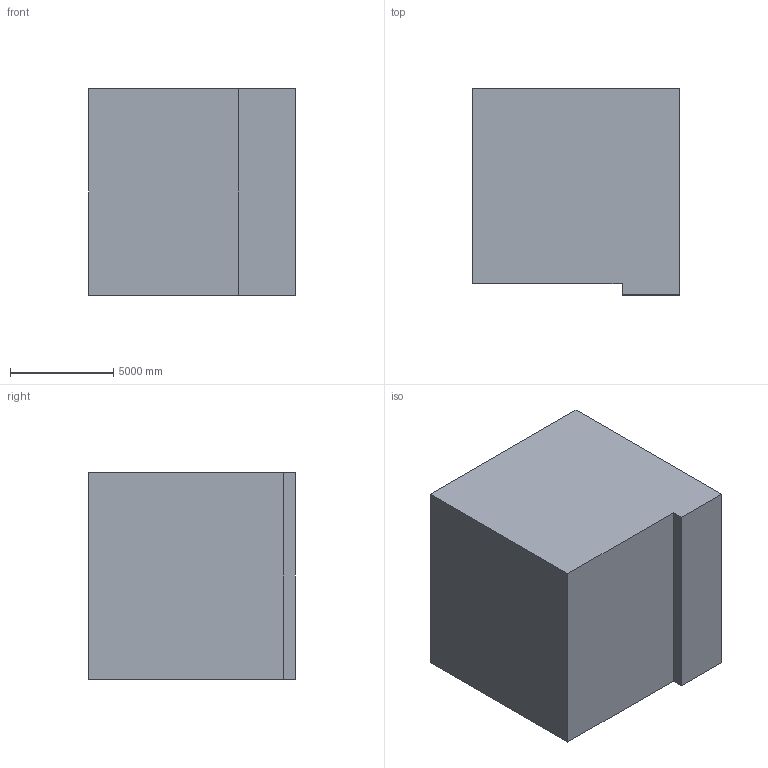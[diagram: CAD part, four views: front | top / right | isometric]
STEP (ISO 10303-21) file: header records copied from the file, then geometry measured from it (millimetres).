
FILE_DESCRIPTION (( 'STEP AP203' ), '1' );
FILE_NAME ('106.STEP', '2022-09-06T15:05:52', ( 'user' ), ( '' ), 'SwSTEP 2.0', 'SolidWorks 2021', '' );
FILE_SCHEMA (( 'CONFIG_CONTROL_DESIGN' ));
Length unit declared in the file: centimetre
Products named in the file (1): 106
Bounding box: 10000 x 10000 x 10000 mm (x, y, z)
Volume: 907005168228.1 mm3; surface area: 591925162.9 mm2
Topology: 1 solids, 1 shells, 11 faces, 27 edges, 18 vertices
Faces by surface type: plane 11
Entity records: 398 total; most frequent: CARTESIAN_POINT 57, ORIENTED_EDGE 54, DIRECTION 51, VECTOR 27, EDGE_CURVE 27, LINE 27, VERTEX_POINT 18, AXIS2_PLACEMENT_3D 12
